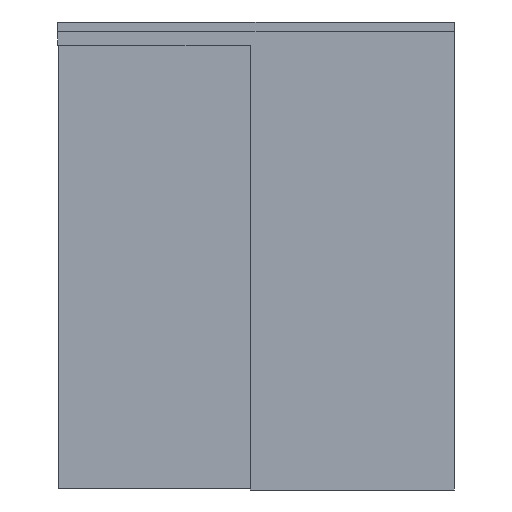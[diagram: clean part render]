
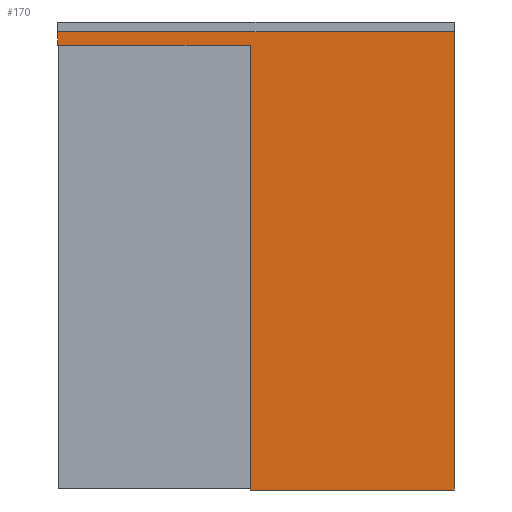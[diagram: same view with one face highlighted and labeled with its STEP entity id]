
A CAD part, front view. The second image highlights one B-rep face of the part: STEP entity #170.
In plain terms, the highlighted planar face has unit normal (0, -1, 0).
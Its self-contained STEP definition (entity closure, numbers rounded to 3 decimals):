
#170=ADVANCED_FACE('',(#420),#421,.F.);
#420=FACE_OUTER_BOUND('',#759,.T.);
#421=PLANE('',#760);
#759=EDGE_LOOP('',(#1165,#1166,#1167,#1168,#1169,#1170));
#760=AXIS2_PLACEMENT_3D('',#1171,#1172,#1173);
#1165=ORIENTED_EDGE('',*,*,#2034,.T.);
#1166=ORIENTED_EDGE('',*,*,#2024,.F.);
#1167=ORIENTED_EDGE('',*,*,#2028,.F.);
#1168=ORIENTED_EDGE('',*,*,#2032,.T.);
#1169=ORIENTED_EDGE('',*,*,#2035,.F.);
#1170=ORIENTED_EDGE('',*,*,#2036,.F.);
#1171=CARTESIAN_POINT('',(0.0,-44.,2333.0));
#1172=DIRECTION('',(0.0,1.0,-0.0));
#1173=DIRECTION('',(0.0,0.0,1.0));
#2024=EDGE_CURVE('',#2418,#2413,#2420,.T.);
#2028=EDGE_CURVE('',#2424,#2418,#2426,.T.);
#2032=EDGE_CURVE('',#2424,#2430,#2432,.T.);
#2034=EDGE_CURVE('',#2434,#2413,#2435,.T.);
#2035=EDGE_CURVE('',#2436,#2430,#2437,.T.);
#2036=EDGE_CURVE('',#2434,#2436,#2438,.T.);
#2413=VERTEX_POINT('',#2993);
#2418=VERTEX_POINT('',#3000);
#2420=LINE('',#3003,#3004);
#2424=VERTEX_POINT('',#3009);
#2426=LINE('',#3012,#3013);
#2430=VERTEX_POINT('',#3018);
#2432=LINE('',#3021,#3022);
#2434=VERTEX_POINT('',#3024);
#2435=LINE('',#3025,#3026);
#2436=VERTEX_POINT('',#3027);
#2437=LINE('',#3028,#3029);
#2438=LINE('',#3030,#3031);
#2993=CARTESIAN_POINT('',(995.0,-44.,2298.0));
#3000=CARTESIAN_POINT('',(995.0,-44.,0.0));
#3003=CARTESIAN_POINT('',(995.0,-44.,7.0));
#3004=VECTOR('',#3709,1.0);
#3009=CARTESIAN_POINT('',(2050.0,-44.,0.0));
#3012=CARTESIAN_POINT('',(1327.5,-44.,0.0));
#3013=VECTOR('',#3712,1.0);
#3018=CARTESIAN_POINT('',(2050.0,-44.,2368.0));
#3021=CARTESIAN_POINT('',(2050.0,-44.,7.0));
#3022=VECTOR('',#3715,1.0);
#3024=CARTESIAN_POINT('',(0.0,-44.,2298.0));
#3025=CARTESIAN_POINT('',(0.0,-44.,2298.0));
#3026=VECTOR('',#3716,1.0);
#3027=CARTESIAN_POINT('',(0.0,-44.,2368.0));
#3028=CARTESIAN_POINT('',(1270.0,-44.,2368.0));
#3029=VECTOR('',#3717,1.0);
#3030=CARTESIAN_POINT('',(0.0,-44.,2301.0));
#3031=VECTOR('',#3718,1.0);
#3709=DIRECTION('',(0.0,0.0,1.0));
#3712=DIRECTION('',(-1.0,0.0,0.0));
#3715=DIRECTION('',(0.0,0.0,1.0));
#3716=DIRECTION('',(1.0,0.0,0.0));
#3717=DIRECTION('',(1.0,0.0,0.0));
#3718=DIRECTION('',(0.0,0.0,1.0));
